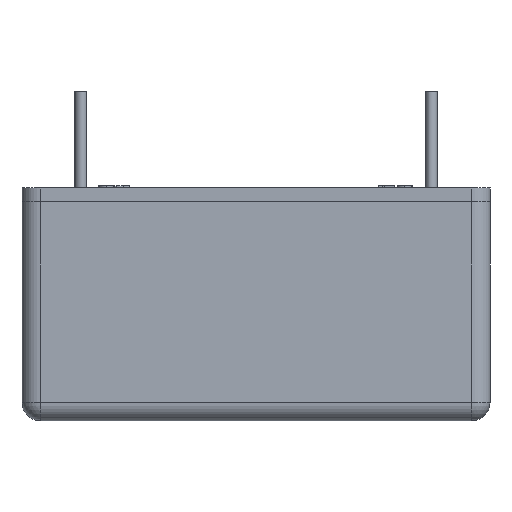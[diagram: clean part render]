
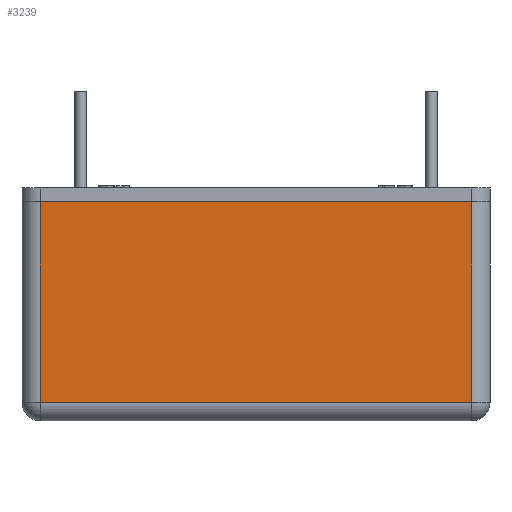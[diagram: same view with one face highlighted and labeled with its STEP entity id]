
A CAD part, left-side view. The second image highlights one B-rep face of the part: STEP entity #3239.
In plain terms, the highlighted planar face has unit normal (-1, 0, 0).
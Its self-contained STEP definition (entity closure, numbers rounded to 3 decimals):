
#158=LINE('',#4626,#423);
#160=LINE('',#4629,#425);
#169=LINE('',#4648,#434);
#174=LINE('',#4659,#439);
#423=VECTOR('',#3830,8.7);
#425=VECTOR('',#3834,18.7);
#434=VECTOR('',#3855,8.7);
#439=VECTOR('',#3868,18.7);
#688=PLANE('',#3474);
#908=FACE_OUTER_BOUND('',#1117,.T.);
#1117=EDGE_LOOP('',(#2381,#2382,#2383,#2384));
#1499=VERTEX_POINT('',#4602);
#1503=VERTEX_POINT('',#4613);
#1507=VERTEX_POINT('',#4624);
#1510=VERTEX_POINT('',#4644);
#1837=EDGE_CURVE('',#1507,#1503,#158,.T.);
#1839=EDGE_CURVE('',#1503,#1499,#160,.T.);
#1850=EDGE_CURVE('',#1499,#1510,#169,.T.);
#1856=EDGE_CURVE('',#1507,#1510,#174,.T.);
#2381=ORIENTED_EDGE('',*,*,#1837,.F.);
#2382=ORIENTED_EDGE('',*,*,#1856,.T.);
#2383=ORIENTED_EDGE('',*,*,#1850,.F.);
#2384=ORIENTED_EDGE('',*,*,#1839,.F.);
#3239=ADVANCED_FACE('',(#908),#688,.T.);
#3474=AXIS2_PLACEMENT_3D('',#4663,#3874,#3875);
#3830=DIRECTION('',(0.,0.,-1.));
#3834=DIRECTION('',(0.,1.,0.));
#3855=DIRECTION('',(0.,0.,1.));
#3868=DIRECTION('',(0.,1.,0.));
#3874=DIRECTION('center_axis',(-1.,0.,0.));
#3875=DIRECTION('ref_axis',(0.,0.,1.));
#4602=CARTESIAN_POINT('',(-15.9,9.35,0.8));
#4613=CARTESIAN_POINT('',(-15.9,-9.35,0.8));
#4624=CARTESIAN_POINT('',(-15.9,-9.35,9.5));
#4626=CARTESIAN_POINT('',(-15.9,-9.35,0.));
#4629=CARTESIAN_POINT('',(-15.9,-5.075,0.8));
#4644=CARTESIAN_POINT('',(-15.9,9.35,9.5));
#4648=CARTESIAN_POINT('',(-15.9,9.35,0.));
#4659=CARTESIAN_POINT('',(-15.9,10.15,9.5));
#4663=CARTESIAN_POINT('Origin',(-15.9,-10.15,0.));
